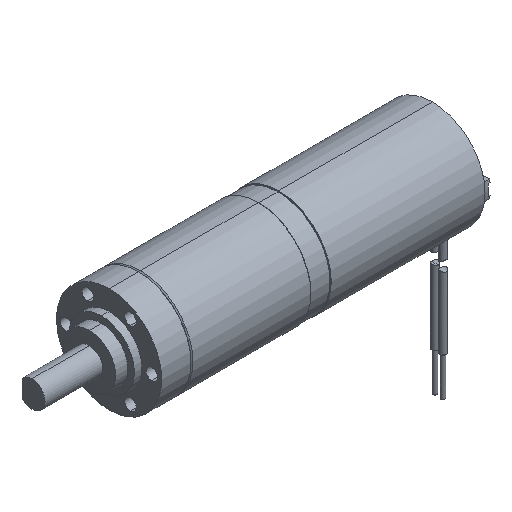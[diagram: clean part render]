
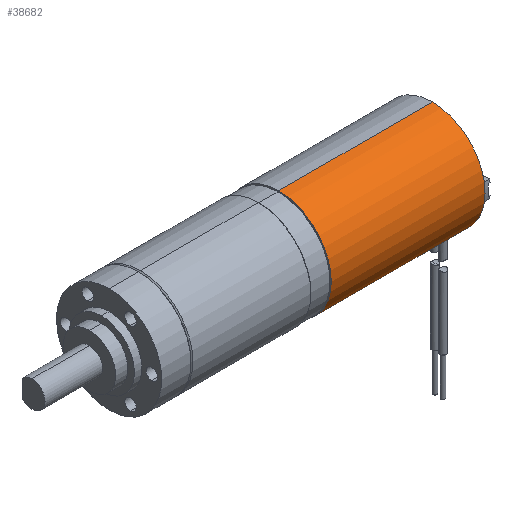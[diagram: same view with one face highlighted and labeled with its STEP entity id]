
A CAD part, isometric view. The second image highlights one B-rep face of the part: STEP entity #38682.
In plain terms, the highlighted cylindrical face has radius 8 mm (diameter 16 mm), a partial arc.
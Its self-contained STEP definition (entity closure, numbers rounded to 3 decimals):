
#1006 = ORIENTED_EDGE ( 'NONE', *, *, #14179, .F. ) ;
#2363 = CARTESIAN_POINT ( 'NONE',  ( 14.8, 0., -8. ) ) ;
#2800 = ORIENTED_EDGE ( 'NONE', *, *, #24774, .T. ) ;
#3888 = EDGE_LOOP ( 'NONE', ( #1006, #2800, #21461, #7471 ) ) ;
#4754 = AXIS2_PLACEMENT_3D ( 'NONE', #20510, #46912, #24284 ) ;
#5535 = CARTESIAN_POINT ( 'NONE',  ( 3.1, 0., 0. ) ) ;
#7147 = CARTESIAN_POINT ( 'NONE',  ( 3.1, 0., -8. ) ) ;
#7471 = ORIENTED_EDGE ( 'NONE', *, *, #26278, .T. ) ;
#9318 = DIRECTION ( 'NONE',  ( 0., 0., 1. ) ) ;
#11542 = LINE ( 'NONE', #23422, #31575 ) ;
#12539 = EDGE_CURVE ( 'NONE', #23708, #16927, #11542, .T. ) ;
#13162 = AXIS2_PLACEMENT_3D ( 'NONE', #5535, #31875, #9318 ) ;
#14179 = EDGE_CURVE ( 'NONE', #21211, #32810, #22757, .T. ) ;
#15694 = DIRECTION ( 'NONE',  ( -1., 0., 0. ) ) ;
#16927 = VERTEX_POINT ( 'NONE', #21701 ) ;
#18108 = CIRCLE ( 'NONE', #13162, 8. ) ;
#20510 = CARTESIAN_POINT ( 'NONE',  ( 26.5, 0., 0. ) ) ;
#21112 = DIRECTION ( 'NONE',  ( -1., 0., 0. ) ) ;
#21211 = VERTEX_POINT ( 'NONE', #32015 ) ;
#21461 = ORIENTED_EDGE ( 'NONE', *, *, #12539, .T. ) ;
#21701 = CARTESIAN_POINT ( 'NONE',  ( 3.1, 0., 8. ) ) ;
#22757 = LINE ( 'NONE', #2363, #41665 ) ;
#23422 = CARTESIAN_POINT ( 'NONE',  ( 14.8, 0., 8. ) ) ;
#23708 = VERTEX_POINT ( 'NONE', #36484 ) ;
#24284 = DIRECTION ( 'NONE',  ( 0., 0., 1. ) ) ;
#24675 = FACE_OUTER_BOUND ( 'NONE', #3888, .T. ) ;
#24774 = EDGE_CURVE ( 'NONE', #21211, #23708, #45660, .T. ) ;
#26066 = CARTESIAN_POINT ( 'NONE',  ( 14.8, 0., 0. ) ) ;
#26278 = EDGE_CURVE ( 'NONE', #16927, #32810, #18108, .T. ) ;
#29696 = DIRECTION ( 'NONE',  ( -1., 0., 0. ) ) ;
#29906 = AXIS2_PLACEMENT_3D ( 'NONE', #26066, #29696, #45073 ) ;
#29949 = CYLINDRICAL_SURFACE ( 'NONE', #29906, 8. ) ;
#31575 = VECTOR ( 'NONE', #15694, 1000. ) ;
#31875 = DIRECTION ( 'NONE',  ( 1., 0., 0. ) ) ;
#32015 = CARTESIAN_POINT ( 'NONE',  ( 26.5, 0., -8. ) ) ;
#32810 = VERTEX_POINT ( 'NONE', #7147 ) ;
#36484 = CARTESIAN_POINT ( 'NONE',  ( 26.5, 0., 8. ) ) ;
#38682 = ADVANCED_FACE ( 'NONE', ( #24675 ), #29949, .T. ) ;
#41665 = VECTOR ( 'NONE', #21112, 1000. ) ;
#45073 = DIRECTION ( 'NONE',  ( 0., 0., 1. ) ) ;
#45660 = CIRCLE ( 'NONE', #4754, 8. ) ;
#46912 = DIRECTION ( 'NONE',  ( -1., 0., 0. ) ) ;
